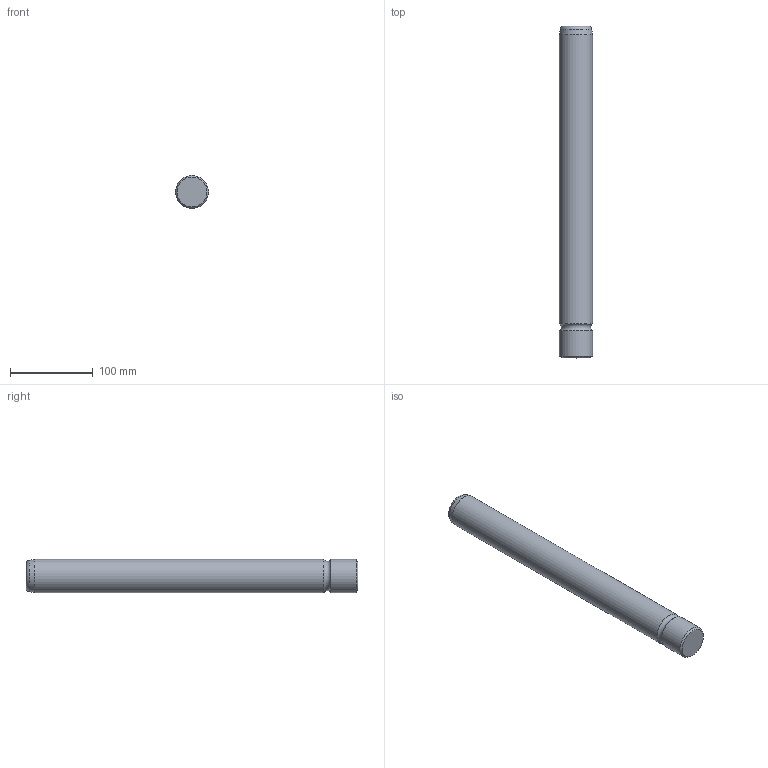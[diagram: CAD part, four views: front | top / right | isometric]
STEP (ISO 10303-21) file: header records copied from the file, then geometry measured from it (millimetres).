
FILE_DESCRIPTION( ( 'STEP AP203' ), '1' );
FILE_NAME( 'D:/Cuma/23 02 2009/D10 Serisi/D10_40400.step', '2002-12-31T22:48:30', ( ' ' ), ( ' ' ), 'XStep 1.0', ' ', ' ' );
FILE_SCHEMA( ( 'CONFIG_CONTROL_DESIGN' ) );
Length unit declared in the file: metre
Products named in the file (1): 1
Bounding box: 40 x 400 x 40 mm (x, y, z)
Volume: 499242.1 mm3; surface area: 52349.9 mm2
Topology: 1 solids, 1 shells, 8 faces, 13 edges, 7 vertices
Faces by surface type: plane 2, torus 2, cone 2, cylinder 2
Full cylindrical faces by diameter (mm): 40 x2
Entity records: 199 total; most frequent: DIRECTION 32, CARTESIAN_POINT 23, AXIS2_PLACEMENT_3D 16, EDGE_LOOP 14, ORIENTED_EDGE 14, FACE_OUTER_BOUND 12, ADVANCED_FACE 8, EDGE_CURVE 7
